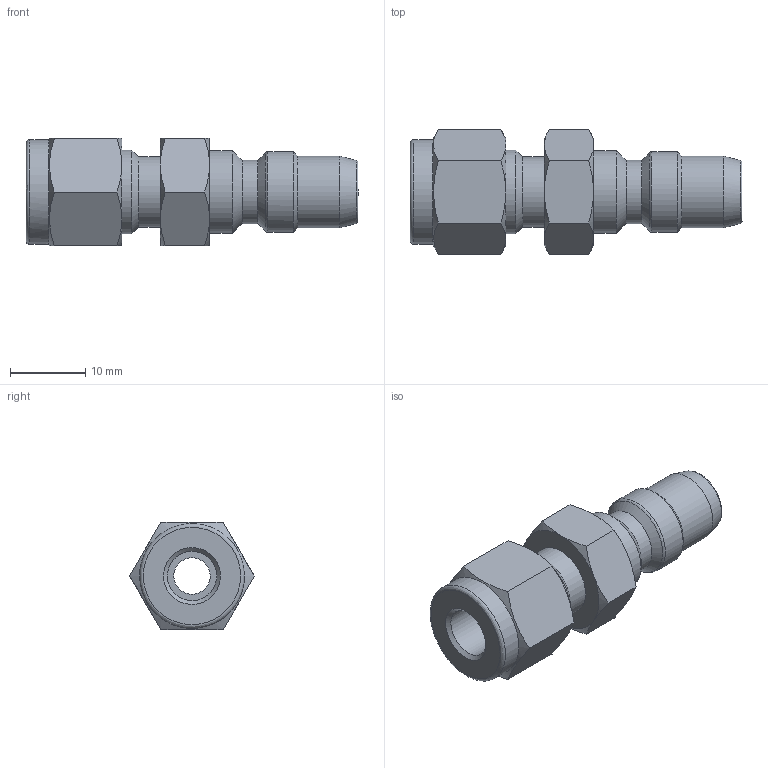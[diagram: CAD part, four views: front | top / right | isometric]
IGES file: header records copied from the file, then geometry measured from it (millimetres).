
Global section: file name: SFQC2P-S4; native system: Autodesk Inventor 2016; preprocessor: unknown; author: 이승민,,11,0; organization: 20170206.082902; date: 20170208.203226; units: millimetre
Bounding box: 44.03 x 16.51 x 14.3 mm (x, y, z)
Volume: 3948.5 mm3; surface area: 2978.7 mm2
Topology: 1 solids, 1 shells, 58 faces, 150 edges, 98 vertices
Faces by surface type: bspline 58
